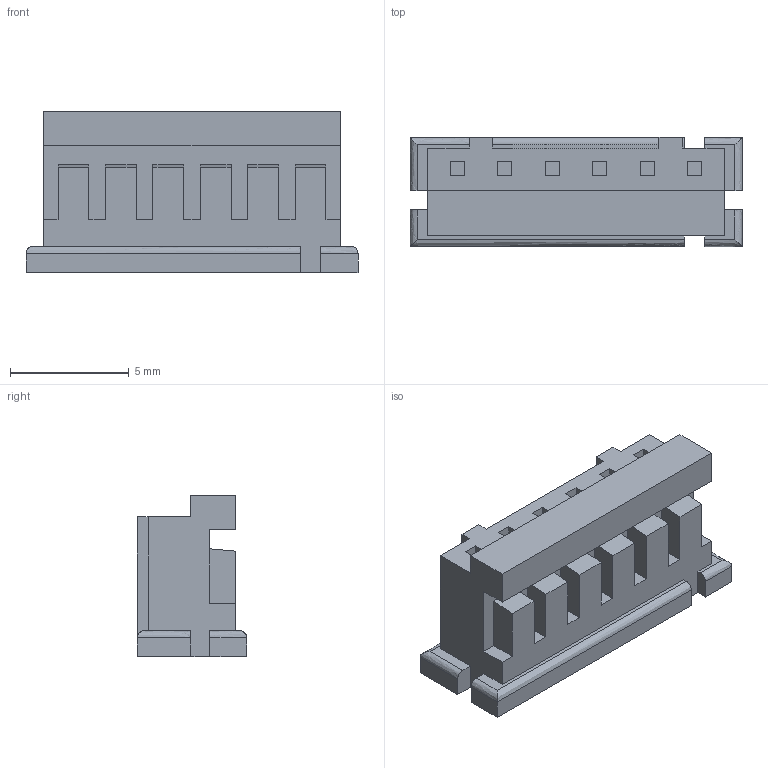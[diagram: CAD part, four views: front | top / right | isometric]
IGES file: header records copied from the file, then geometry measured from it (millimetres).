
Start section: Elysium IGES Interface
Global section: file name: T:\3DWEB公開\NCW\DF3\DF3-#S-2C\DF3-6S-2C.igs, ; native system: SolidDesigner 15.00A  14-Mar-2007; preprocessor: OneSpace IGES_3D V2.2; author: Unknown; organization: Unknown; date: 20080207.191338; units: millimetre
Bounding box: 14 x 4.6 x 6.8 mm (x, y, z)
Volume: 280.1 mm3; surface area: 435.3 mm2
Topology: 1 solids, 13 shells, 218 faces, 537 edges, 356 vertices
Faces by surface type: bspline 218
